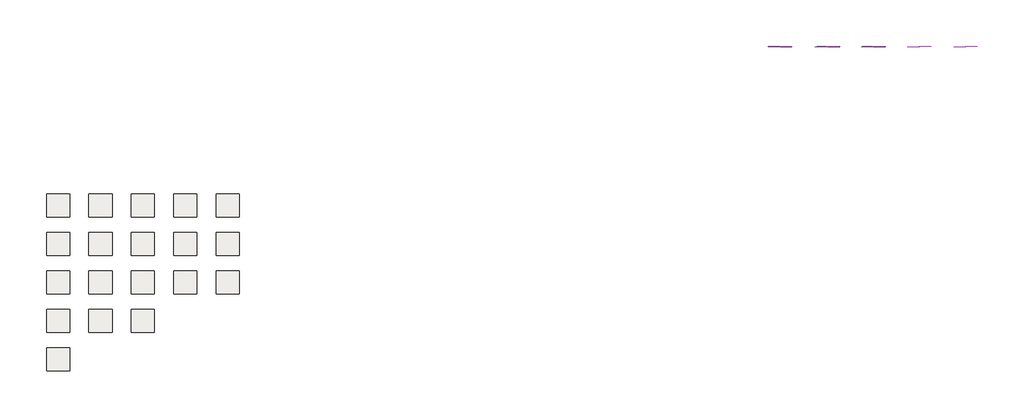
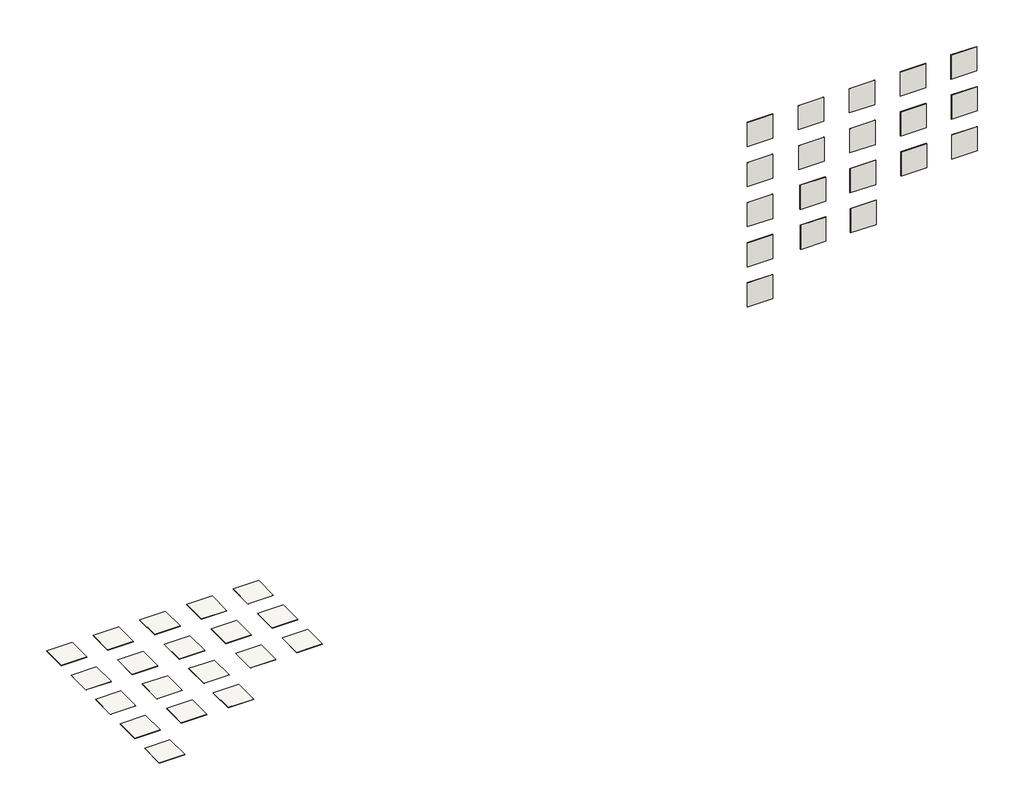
# One storey: 19 slabs, 19 walls.
"""IFC4 building model written with IfcOpenShell, lengths in millimetres."""

from ifc_helpers import new_model, si_unit, frame, origin, place, context, project, spatial, polyline, outline, extrude, element, save

model = new_model("IFC4")

# Units and contexts
model_context = context("Model", 3, world=origin())
ifc_project = project(units=[si_unit("LENGTHUNIT", "METRE", prefix="MILLI")], contexts=[model_context])

# Site, building, storey
site = spatial("IfcSite", under=ifc_project)
building = spatial("IfcBuilding", under=site)
storey = spatial("IfcBuildingStorey", under=building, Name="MAORI FLOOR TILES", Elevation=0.0)

# Slabs
placement = place(None, origin())
element("IfcSlab", 1, ObjectType="VIVES LADAKHI GRIS 20x20", at=placement, inside=storey, context=model_context, shape_type="SweptSolid", body=[
    extrude(outline(polyline([(-1597.6740217, -3204.9550563), (-1597.6740217, -3804.9550563), (-2197.6740217, -3804.9550563), (-2197.6740217, -3204.9550563), (-1597.6740217, -3204.9550563)])), frame((0.0, 0.0, -8.0), z_axis=(0.0, 0.0, 1.0), x_axis=(1.0, 0.0, 0.0)), (0.0, 0.0, 1.0), 8.0),
])
element("IfcSlab", 2, ObjectType="VIVES LADAKHI CIELO 20x20", at=placement, inside=storey, context=model_context, shape_type="SweptSolid", body=[
    extrude(outline(polyline([(-497.6740217, -3204.9550563), (-497.6740217, -3804.9550563), (-1097.6740217, -3804.9550563), (-1097.6740217, -3204.9550563), (-497.6740217, -3204.9550563)])), frame((0.0, 0.0, -8.0), z_axis=(0.0, 0.0, 1.0), x_axis=(1.0, 0.0, 0.0)), (0.0, 0.0, 1.0), 8.0),
])
element("IfcSlab", 3, ObjectType="VIVES LADAKHI MUSGO 20x20", at=placement, inside=storey, context=model_context, shape_type="SweptSolid", body=[
    extrude(outline(polyline([(602.3259783, -3204.9550563), (602.3259783, -3804.9550563), (2.3259783, -3804.9550563), (2.3259783, -3204.9550563), (602.3259783, -3204.9550563)])), frame((0.0, 0.0, -8.0), z_axis=(0.0, 0.0, 1.0), x_axis=(1.0, 0.0, 0.0)), (0.0, 0.0, 1.0), 8.0),
])
element("IfcSlab", 4, ObjectType="VIVES LADAKHI OCRE 20x20", at=placement, inside=storey, context=model_context, shape_type="SweptSolid", body=[
    extrude(outline(polyline([(1702.3259783, -3204.9550563), (1702.3259783, -3804.9550563), (1102.3259783, -3804.9550563), (1102.3259783, -3204.9550563), (1702.3259783, -3204.9550563)])), frame((0.0, 0.0, -8.0), z_axis=(0.0, 0.0, 1.0), x_axis=(1.0, 0.0, 0.0)), (0.0, 0.0, 1.0), 8.0),
])
element("IfcSlab", 5, ObjectType="VIVES LADAKHI GRAFITO 20x20", at=placement, inside=storey, context=model_context, shape_type="SweptSolid", body=[
    extrude(outline(polyline([(2802.3259783, -3204.9550563), (2802.3259783, -3804.9550563), (2202.3259783, -3804.9550563), (2202.3259783, -3204.9550563), (2802.3259783, -3204.9550563)])), frame((0.0, 0.0, -8.0), z_axis=(0.0, 0.0, 1.0), x_axis=(1.0, 0.0, 0.0)), (0.0, 0.0, 1.0), 8.0),
])
element("IfcSlab", 6, ObjectType="VIVES GOROKA GRIS 20x20", at=placement, inside=storey, context=model_context, shape_type="SweptSolid", body=[
    extrude(outline(polyline([(-1597.6740217, -4204.9550563), (-1597.6740217, -4804.9550563), (-2197.6740217, -4804.9550563), (-2197.6740217, -4204.9550563), (-1597.6740217, -4204.9550563)])), frame((0.0, 0.0, -8.0), z_axis=(0.0, 0.0, 1.0), x_axis=(1.0, 0.0, 0.0)), (0.0, 0.0, 1.0), 8.0),
])
element("IfcSlab", 7, ObjectType="VIVES GOROKA CIELO 20x20", at=placement, inside=storey, context=model_context, shape_type="SweptSolid", body=[
    extrude(outline(polyline([(-497.6740217, -4204.9550563), (-497.6740217, -4804.9550563), (-1097.6740217, -4804.9550563), (-1097.6740217, -4204.9550563), (-497.6740217, -4204.9550563)])), frame((0.0, 0.0, -8.0), z_axis=(0.0, 0.0, 1.0), x_axis=(1.0, 0.0, 0.0)), (0.0, 0.0, 1.0), 8.0),
])
element("IfcSlab", 8, ObjectType="VIVES GOROKA MUSGO 20x20", at=placement, inside=storey, context=model_context, shape_type="SweptSolid", body=[
    extrude(outline(polyline([(602.3259783, -4204.9550563), (602.3259783, -4804.9550563), (2.3259783, -4804.9550563), (2.3259783, -4204.9550563), (602.3259783, -4204.9550563)])), frame((0.0, 0.0, -8.0), z_axis=(0.0, 0.0, 1.0), x_axis=(1.0, 0.0, 0.0)), (0.0, 0.0, 1.0), 8.0),
])
element("IfcSlab", 9, ObjectType="VIVES GOROKA OCRE 20x20", at=placement, inside=storey, context=model_context, shape_type="SweptSolid", body=[
    extrude(outline(polyline([(1702.3259783, -4204.9550563), (1702.3259783, -4804.9550563), (1102.3259783, -4804.9550563), (1102.3259783, -4204.9550563), (1702.3259783, -4204.9550563)])), frame((0.0, 0.0, -8.0), z_axis=(0.0, 0.0, 1.0), x_axis=(1.0, 0.0, 0.0)), (0.0, 0.0, 1.0), 8.0),
])
element("IfcSlab", 10, ObjectType="VIVES GOROKA GRAFITO 20x20", at=placement, inside=storey, context=model_context, shape_type="SweptSolid", body=[
    extrude(outline(polyline([(2802.3259783, -4204.9550563), (2802.3259783, -4804.9550563), (2202.3259783, -4804.9550563), (2202.3259783, -4204.9550563), (2802.3259783, -4204.9550563)])), frame((0.0, 0.0, -8.0), z_axis=(0.0, 0.0, 1.0), x_axis=(1.0, 0.0, 0.0)), (0.0, 0.0, 1.0), 8.0),
])
element("IfcSlab", 11, ObjectType="VIVES VODEVIL HUMO 20x20", at=placement, inside=storey, context=model_context, shape_type="SweptSolid", body=[
    extrude(outline(polyline([(-1597.6740217, -5204.9550563), (-1597.6740217, -5804.9550563), (-2197.6740217, -5804.9550563), (-2197.6740217, -5204.9550563), (-1597.6740217, -5204.9550563)])), frame((0.0, 0.0, -8.0), z_axis=(0.0, 0.0, 1.0), x_axis=(1.0, 0.0, 0.0)), (0.0, 0.0, 1.0), 8.0),
])
element("IfcSlab", 12, ObjectType="VIVES VODEVIL NUBE 20x20", at=placement, inside=storey, context=model_context, shape_type="SweptSolid", body=[
    extrude(outline(polyline([(-497.6740217, -5204.9550563), (-497.6740217, -5804.9550563), (-1097.6740217, -5804.9550563), (-1097.6740217, -5204.9550563), (-497.6740217, -5204.9550563)])), frame((0.0, 0.0, -8.0), z_axis=(0.0, 0.0, 1.0), x_axis=(1.0, 0.0, 0.0)), (0.0, 0.0, 1.0), 8.0),
])
element("IfcSlab", 13, ObjectType="VIVES VODEVIL OLIVA 20x20", at=placement, inside=storey, context=model_context, shape_type="SweptSolid", body=[
    extrude(outline(polyline([(602.3259783, -5204.9550563), (602.3259783, -5804.9550563), (2.3259783, -5804.9550563), (2.3259783, -5204.9550563), (602.3259783, -5204.9550563)])), frame((0.0, 0.0, -8.0), z_axis=(0.0, 0.0, 1.0), x_axis=(1.0, 0.0, 0.0)), (0.0, 0.0, 1.0), 8.0),
])
element("IfcSlab", 14, ObjectType="VIVES VODEVIL BEIGE 20x20", at=placement, inside=storey, context=model_context, shape_type="SweptSolid", body=[
    extrude(outline(polyline([(1702.3259783, -5204.9550563), (1702.3259783, -5804.9550563), (1102.3259783, -5804.9550563), (1102.3259783, -5204.9550563), (1702.3259783, -5204.9550563)])), frame((0.0, 0.0, -8.0), z_axis=(0.0, 0.0, 1.0), x_axis=(1.0, 0.0, 0.0)), (0.0, 0.0, 1.0), 8.0),
])
element("IfcSlab", 15, ObjectType="VIVES VODEVIL ANTRACITA 20x20", at=placement, inside=storey, context=model_context, shape_type="SweptSolid", body=[
    extrude(outline(polyline([(2802.3259783, -5204.9550563), (2802.3259783, -5804.9550563), (2202.3259783, -5804.9550563), (2202.3259783, -5204.9550563), (2802.3259783, -5204.9550563)])), frame((0.0, 0.0, -8.0), z_axis=(0.0, 0.0, 1.0), x_axis=(1.0, 0.0, 0.0)), (0.0, 0.0, 1.0), 8.0),
])
element("IfcSlab", 16, ObjectType="VIVES BANNA 20x20", at=placement, inside=storey, context=model_context, shape_type="SweptSolid", body=[
    extrude(outline(polyline([(-1597.6740217, -6204.9550563), (-1597.6740217, -6804.9550563), (-2197.6740217, -6804.9550563), (-2197.6740217, -6204.9550563), (-1597.6740217, -6204.9550563)])), frame((0.0, 0.0, -8.0), z_axis=(0.0, 0.0, 1.0), x_axis=(1.0, 0.0, 0.0)), (0.0, 0.0, 1.0), 8.0),
])
element("IfcSlab", 17, ObjectType="VIVES HAMAR 20x20", at=placement, inside=storey, context=model_context, shape_type="SweptSolid", body=[
    extrude(outline(polyline([(-497.6740217, -6204.9550563), (-497.6740217, -6804.9550563), (-1097.6740217, -6804.9550563), (-1097.6740217, -6204.9550563), (-497.6740217, -6204.9550563)])), frame((0.0, 0.0, -8.0), z_axis=(0.0, 0.0, 1.0), x_axis=(1.0, 0.0, 0.0)), (0.0, 0.0, 1.0), 8.0),
])
element("IfcSlab", 18, ObjectType="VIVES VANUATU 20x20", at=placement, inside=storey, context=model_context, shape_type="SweptSolid", body=[
    extrude(outline(polyline([(602.3259783, -6204.9550563), (602.3259783, -6804.9550563), (2.3259783, -6804.9550563), (2.3259783, -6204.9550563), (602.3259783, -6204.9550563)])), frame((0.0, 0.0, -8.0), z_axis=(0.0, 0.0, 1.0), x_axis=(1.0, 0.0, 0.0)), (0.0, 0.0, 1.0), 8.0),
])
element("IfcSlab", 19, ObjectType="VIVES TIEBELE 20x20", at=placement, inside=storey, context=model_context, shape_type="SweptSolid", body=[
    extrude(outline(polyline([(-1597.6740217, -7204.9550563), (-1597.6740217, -7804.9550563), (-2197.6740217, -7804.9550563), (-2197.6740217, -7204.9550563), (-1597.6740217, -7204.9550563)])), frame((0.0, 0.0, -8.0), z_axis=(0.0, 0.0, 1.0), x_axis=(1.0, 0.0, 0.0)), (0.0, 0.0, 1.0), 8.0),
])

# Walls
element("IfcWall", 20, ObjectType="VIVES LADAKHI GRIS 20x20", at=placement, inside=storey, context=model_context, shape_type="SweptSolid", body=[
    extrude(outline(polyline([(17127.8886487, 614.1723362), (16527.8886487, 614.1723362), (16527.8886487, 622.1723362), (17127.8886487, 622.1723362), (17127.8886487, 614.1723362)])), frame((0.0, 0.0, 3700.0), z_axis=(0.0, 0.0, 1.0), x_axis=(1.0, 0.0, 0.0)), (0.0, 0.0, 1.0), 600.0),
])
element("IfcWall", 21, ObjectType="VIVES LADAKHI CIELO 20x20", at=placement, inside=storey, context=model_context, shape_type="SweptSolid", body=[
    extrude(outline(polyline([(18327.8886487, 614.1723362), (17727.8886487, 614.1723362), (17727.8886487, 622.1723362), (18327.8886487, 622.1723362), (18327.8886487, 614.1723362)])), frame((0.0, 0.0, 3700.0), z_axis=(0.0, 0.0, 1.0), x_axis=(1.0, 0.0, 0.0)), (0.0, 0.0, 1.0), 600.0),
])
element("IfcWall", 22, ObjectType="VIVES LADAKHI MUSGO 20x20", at=placement, inside=storey, context=model_context, shape_type="SweptSolid", body=[
    extrude(outline(polyline([(19527.8886487, 614.1723362), (18927.8886487, 614.1723362), (18927.8886487, 622.1723362), (19527.8886487, 622.1723362), (19527.8886487, 614.1723362)])), frame((0.0, 0.0, 3700.0), z_axis=(0.0, 0.0, 1.0), x_axis=(1.0, 0.0, 0.0)), (0.0, 0.0, 1.0), 600.0),
])
element("IfcWall", 23, ObjectType="VIVES LADAKHI OCRE 20x20", at=placement, inside=storey, context=model_context, shape_type="SweptSolid", body=[
    extrude(outline(polyline([(20727.8886487, 614.1723362), (20127.8886487, 614.1723362), (20127.8886487, 622.1723362), (20727.8886487, 622.1723362), (20727.8886487, 614.1723362)])), frame((0.0, 0.0, 3700.0), z_axis=(0.0, 0.0, 1.0), x_axis=(1.0, 0.0, 0.0)), (0.0, 0.0, 1.0), 600.0),
])
element("IfcWall", 24, ObjectType="VIVES LADAKHI GRAFITO 20x20", at=placement, inside=storey, context=model_context, shape_type="SweptSolid", body=[
    extrude(outline(polyline([(21927.8886487, 614.1723362), (21327.8886487, 614.1723362), (21327.8886487, 622.1723362), (21927.8886487, 622.1723362), (21927.8886487, 614.1723362)])), frame((0.0, 0.0, 3700.0), z_axis=(0.0, 0.0, 1.0), x_axis=(1.0, 0.0, 0.0)), (0.0, 0.0, 1.0), 600.0),
])
element("IfcWall", 25, ObjectType="VIVES GOROKA GRIS 20x20", at=placement, inside=storey, context=model_context, shape_type="SweptSolid", body=[
    extrude(outline(polyline([(17127.8886487, 614.1723362), (16527.8886487, 614.1723362), (16527.8886487, 622.1723362), (17127.8886487, 622.1723362), (17127.8886487, 614.1723362)])), frame((0.0, 0.0, 2700.0), z_axis=(0.0, 0.0, 1.0), x_axis=(1.0, 0.0, 0.0)), (0.0, 0.0, 1.0), 600.0),
])
element("IfcWall", 26, ObjectType="VIVES GOROKA CIELO 20x20", at=placement, inside=storey, context=model_context, shape_type="SweptSolid", body=[
    extrude(outline(polyline([(18337.7587595, 614.1723362), (17737.7587595, 614.1723362), (17737.7587595, 622.1723362), (18337.7587595, 622.1723362), (18337.7587595, 614.1723362)])), frame((0.0, 0.0, 2700.0), z_axis=(0.0, 0.0, 1.0), x_axis=(1.0, 0.0, 0.0)), (0.0, 0.0, 1.0), 600.0),
])
element("IfcWall", 27, ObjectType="VIVES GOROKA MUSGO 20x20", at=placement, inside=storey, context=model_context, shape_type="SweptSolid", body=[
    extrude(outline(polyline([(19537.7587595, 614.1723362), (18937.7587595, 614.1723362), (18937.7587595, 622.1723362), (19537.7587595, 622.1723362), (19537.7587595, 614.1723362)])), frame((0.0, 0.0, 2700.0), z_axis=(0.0, 0.0, 1.0), x_axis=(1.0, 0.0, 0.0)), (0.0, 0.0, 1.0), 600.0),
])
element("IfcWall", 28, ObjectType="VIVES GOROKA OCRE 20x20", at=placement, inside=storey, context=model_context, shape_type="SweptSolid", body=[
    extrude(outline(polyline([(20737.7587595, 614.1723362), (20137.7587595, 614.1723362), (20137.7587595, 622.1723362), (20737.7587595, 622.1723362), (20737.7587595, 614.1723362)])), frame((0.0, 0.0, 2700.0), z_axis=(0.0, 0.0, 1.0), x_axis=(1.0, 0.0, 0.0)), (0.0, 0.0, 1.0), 600.0),
])
element("IfcWall", 29, ObjectType="VIVES GOROKA GRAFITO 20x20", at=placement, inside=storey, context=model_context, shape_type="SweptSolid", body=[
    extrude(outline(polyline([(21937.7587595, 614.1723362), (21337.7587595, 614.1723362), (21337.7587595, 622.1723362), (21937.7587595, 622.1723362), (21937.7587595, 614.1723362)])), frame((0.0, 0.0, 2700.0), z_axis=(0.0, 0.0, 1.0), x_axis=(1.0, 0.0, 0.0)), (0.0, 0.0, 1.0), 600.0),
])
element("IfcWall", 30, ObjectType="VIVES VODEVIL HUMO 20x20", at=placement, inside=storey, context=model_context, shape_type="SweptSolid", body=[
    extrude(outline(polyline([(17127.8886487, 614.1723362), (16527.8886487, 614.1723362), (16527.8886487, 622.1723362), (17127.8886487, 622.1723362), (17127.8886487, 614.1723362)])), frame((0.0, 0.0, 1700.0), z_axis=(0.0, 0.0, 1.0), x_axis=(1.0, 0.0, 0.0)), (0.0, 0.0, 1.0), 600.0),
])
element("IfcWall", 31, ObjectType="VIVES VODEVIL NUBE 20x20", at=placement, inside=storey, context=model_context, shape_type="SweptSolid", body=[
    extrude(outline(polyline([(18367.8886487, 614.1723362), (17767.8886487, 614.1723362), (17767.8886487, 622.1723362), (18367.8886487, 622.1723362), (18367.8886487, 614.1723362)])), frame((0.0, 0.0, 1700.0), z_axis=(0.0, 0.0, 1.0), x_axis=(1.0, 0.0, 0.0)), (0.0, 0.0, 1.0), 600.0),
])
element("IfcWall", 32, ObjectType="VIVES VODEVIL OLIVA 20x20", at=placement, inside=storey, context=model_context, shape_type="SweptSolid", body=[
    extrude(outline(polyline([(19547.6288703, 614.1723362), (18947.6288703, 614.1723362), (18947.6288703, 622.1723362), (19547.6288703, 622.1723362), (19547.6288703, 614.1723362)])), frame((0.0, 0.0, 1700.0), z_axis=(0.0, 0.0, 1.0), x_axis=(1.0, 0.0, 0.0)), (0.0, 0.0, 1.0), 600.0),
])
element("IfcWall", 33, ObjectType="VIVES VODEVIL BEIGE 20x20", at=placement, inside=storey, context=model_context, shape_type="SweptSolid", body=[
    extrude(outline(polyline([(20747.6288703, 614.1723362), (20147.6288703, 614.1723362), (20147.6288703, 622.1723362), (20747.6288703, 622.1723362), (20747.6288703, 614.1723362)])), frame((0.0, 0.0, 1700.0), z_axis=(0.0, 0.0, 1.0), x_axis=(1.0, 0.0, 0.0)), (0.0, 0.0, 1.0), 600.0),
])
element("IfcWall", 34, ObjectType="VIVES VODEVIL ANTRACITA 20x20", at=placement, inside=storey, context=model_context, shape_type="SweptSolid", body=[
    extrude(outline(polyline([(21947.6288703, 614.1723362), (21347.6288703, 614.1723362), (21347.6288703, 622.1723362), (21947.6288703, 622.1723362), (21947.6288703, 614.1723362)])), frame((0.0, 0.0, 1700.0), z_axis=(0.0, 0.0, 1.0), x_axis=(1.0, 0.0, 0.0)), (0.0, 0.0, 1.0), 600.0),
])
element("IfcWall", 35, ObjectType="VIVES BANNA 20x20", at=placement, inside=storey, context=model_context, shape_type="SweptSolid", body=[
    extrude(outline(polyline([(17127.8886487, 614.1723362), (16527.8886487, 614.1723362), (16527.8886487, 622.1723362), (17127.8886487, 622.1723362), (17127.8886487, 614.1723362)])), frame((0.0, 0.0, 700.0), z_axis=(0.0, 0.0, 1.0), x_axis=(1.0, 0.0, 0.0)), (0.0, 0.0, 1.0), 600.0),
])
element("IfcWall", 36, ObjectType="VIVES HAMAR 20x20", at=placement, inside=storey, context=model_context, shape_type="SweptSolid", body=[
    extrude(outline(polyline([(18377.7587595, 614.1723362), (17777.7587595, 614.1723362), (17777.7587595, 622.1723362), (18377.7587595, 622.1723362), (18377.7587595, 614.1723362)])), frame((0.0, 0.0, 700.0), z_axis=(0.0, 0.0, 1.0), x_axis=(1.0, 0.0, 0.0)), (0.0, 0.0, 1.0), 600.0),
])
element("IfcWall", 37, ObjectType="VIVES VANUATU 20x20", at=placement, inside=storey, context=model_context, shape_type="SweptSolid", body=[
    extrude(outline(polyline([(19557.4989811, 614.1723362), (18957.4989811, 614.1723362), (18957.4989811, 622.1723362), (19557.4989811, 622.1723362), (19557.4989811, 614.1723362)])), frame((0.0, 0.0, 700.0), z_axis=(0.0, 0.0, 1.0), x_axis=(1.0, 0.0, 0.0)), (0.0, 0.0, 1.0), 600.0),
])
element("IfcWall", 38, ObjectType="VIVES TIEBELE 20x20", at=placement, inside=storey, context=model_context, shape_type="SweptSolid", body=[
    extrude(outline(polyline([(17127.8886487, 614.1723362), (16527.8886487, 614.1723362), (16527.8886487, 622.1723362), (17127.8886487, 622.1723362), (17127.8886487, 614.1723362)])), frame((0.0, 0.0, -300.0), z_axis=(0.0, 0.0, 1.0), x_axis=(1.0, 0.0, 0.0)), (0.0, 0.0, 1.0), 600.0),
])

save(model, "model.ifc")
